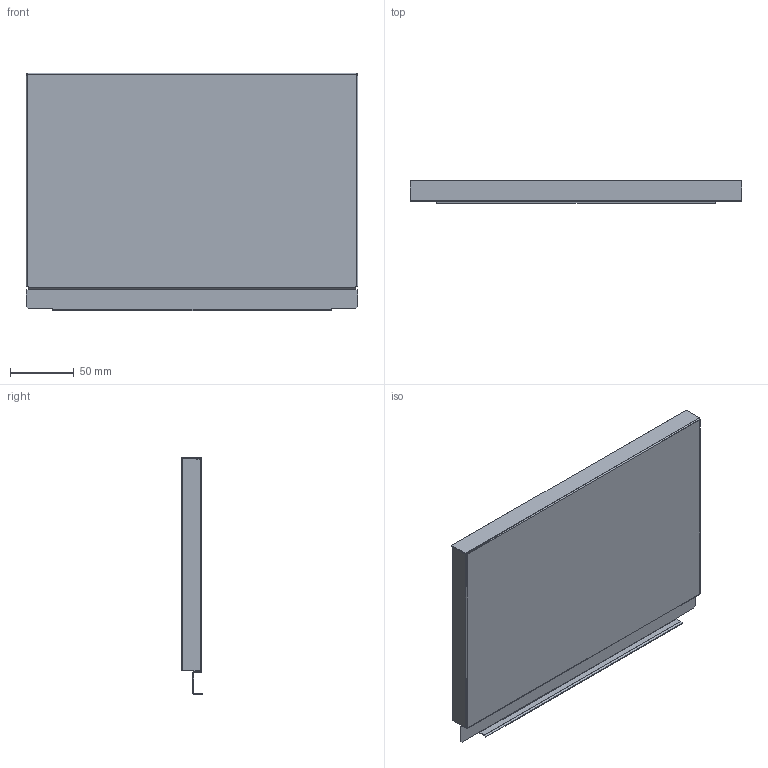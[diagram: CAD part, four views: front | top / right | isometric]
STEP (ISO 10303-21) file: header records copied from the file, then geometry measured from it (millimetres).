
FILE_DESCRIPTION (( 'STEP AP214' ), '1' );
FILE_NAME ('_STRW_H186_KAB_350.step', '2010-08-24T14:40:22', ( 'grass' ), ( '' ), 'SwSTEP 2.0', 'SolidWorks 2009', '' );
FILE_SCHEMA (( 'AUTOMOTIVE_DESIGN' ));
Length unit declared in the file: millimetre
Products named in the file (1): _STRW_H186_KAB_350
Bounding box: 260 x 17 x 186.14 mm (x, y, z)
Volume: 49455 mm3; surface area: 124472.8 mm2
Topology: 1 solids, 1 shells, 76 faces, 214 edges, 140 vertices
Faces by surface type: plane 54, cylinder 22
Entity records: 2472 total; most frequent: CARTESIAN_POINT 431, ORIENTED_EDGE 428, DIRECTION 412, EDGE_CURVE 214, LINE 170, VECTOR 170, VERTEX_POINT 140, AXIS2_PLACEMENT_3D 121
